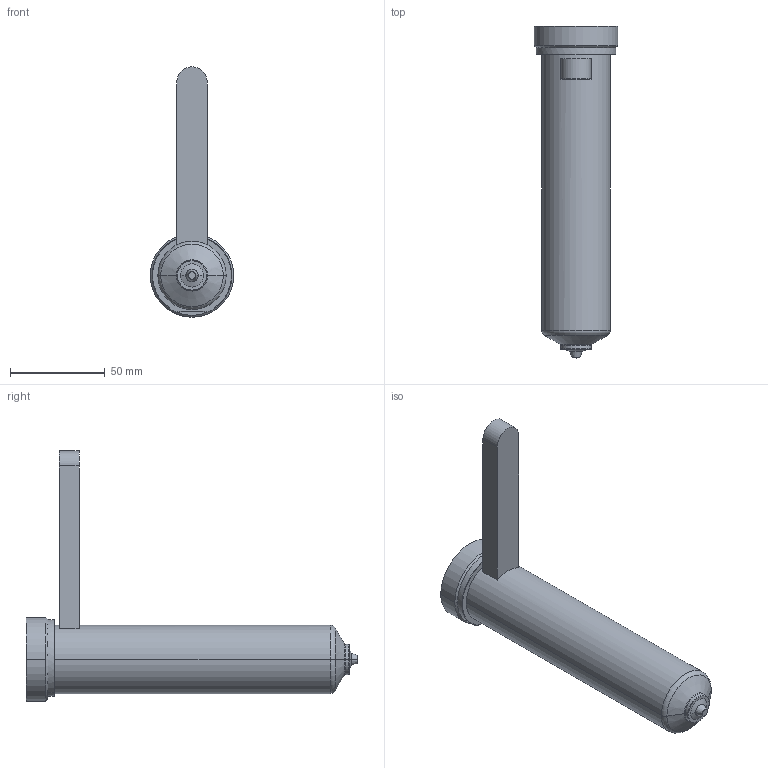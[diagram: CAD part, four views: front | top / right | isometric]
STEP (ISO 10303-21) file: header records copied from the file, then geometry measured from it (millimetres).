
FILE_DESCRIPTION((''),'2;1');
FILE_NAME('EO12_VG-BL_STD_160_COT','2024-02-19T13:14:33',('sundharh'),(''),'CREO PARAMETRIC BY PTC INC, 2023154','CREO PARAMETRIC BY PTC INC, 2023154','');
FILE_SCHEMA(('CONFIG_CONTROL_DESIGN'));
Length unit declared in the file: millimetre
Products named in the file (1): EO12_VG-BL_STD_160_COT
Bounding box: 44 x 175 x 132 mm (x, y, z)
Volume: 191133.1 mm3; surface area: 26699.3 mm2
Topology: 1 solids, 1 shells, 38 faces, 81 edges, 48 vertices
Faces by surface type: cylinder 11, plane 10, torus 9, cone 6, sphere 2
Entity records: 1135 total; most frequent: CARTESIAN_POINT 247, DIRECTION 199, ORIENTED_EDGE 162, AXIS2_PLACEMENT_3D 86, EDGE_CURVE 81, VERTEX_POINT 48, CIRCLE 48, EDGE_LOOP 41
